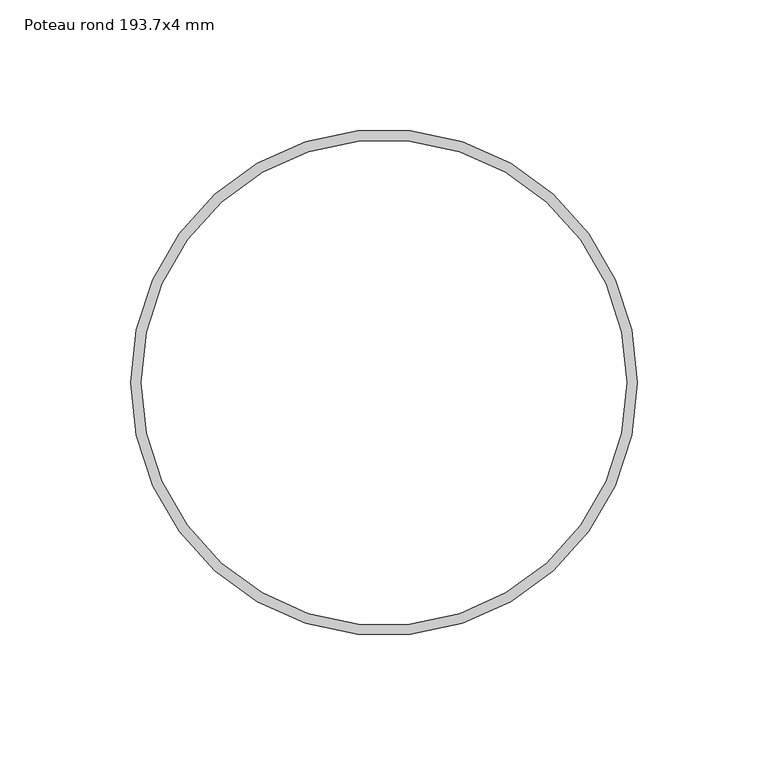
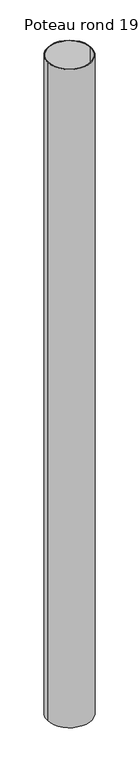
"""IFC4 building model written with IfcOpenShell, lengths in millimetres: column geometry, Poteau RO (EN 10219-2) : Poteau rond 193.7x4 mm."""

from ifc_helpers import new_model, si_unit, point, frame, origin, origin_2d, place, context, project, spatial, circle_curve, trimmed, segment, composite_curve, outline, extrude, source, transform, mapped, element, save


def poteau_rond_193_7x4_mm_b0dfd00d(model_context):
    return source(origin(), model_context, "Body", "SweptSolid", [
        extrude(outline(composite_curve([segment(trimmed(circle_curve(origin_2d(), 96.85), [point((-96.85, 0.0))], [point((96.85, 0.0))], False, "CARTESIAN"), True, "CONTINUOUS"), segment(trimmed(circle_curve(origin_2d(), 96.85), [point((96.85, 0.0))], [point((-96.85, 0.0))], False, "CARTESIAN"), True, "CONTINUOUS")], self_intersect=False), holes=[composite_curve([segment(trimmed(circle_curve(origin_2d(), 92.85), [point((-92.85, 0.0))], [point((92.85, 0.0))], True, "CARTESIAN"), True, "CONTINUOUS"), segment(trimmed(circle_curve(origin_2d(), 92.85), [point((92.85, 0.0))], [point((-92.85, 0.0))], True, "CARTESIAN"), True, "CONTINUOUS")], self_intersect=False)]), frame((0.0, 0.0, 869500.0), z_axis=(0.0, 0.0, 1.0), x_axis=(1.0, 0.0, 0.0)), (0.0, 0.0, 1.0), 3051.2466908),
    ])


if __name__ == "__main__":
    model = new_model("IFC4")
    model_context = context("Model", 3, world=origin())
    ifc_project = project(units=[si_unit("LENGTHUNIT", "METRE", prefix="MILLI")], contexts=[model_context])
    site = spatial("IfcSite", under=ifc_project)
    building = spatial("IfcBuilding", under=site)
    placement = place(None, origin())
    poteau_rond_193_7x4_mm_shape = poteau_rond_193_7x4_mm_b0dfd00d(model_context)
    element("IfcColumn", 1, ObjectType="Poteau RO (EN 10219-2) : Poteau rond 193.7x4 mm", at=placement, inside=building, context=model_context, shape_type="MappedRepresentation", body=[
        mapped(poteau_rond_193_7x4_mm_shape, transform((0.0, 0.0, 0.0), x_axis=(1.0, 0.0, 0.0), y_axis=(0.0, 1.0, 0.0), z_axis=(0.0, 0.0, 1.0))),
    ])
    save(model, "model.ifc")
